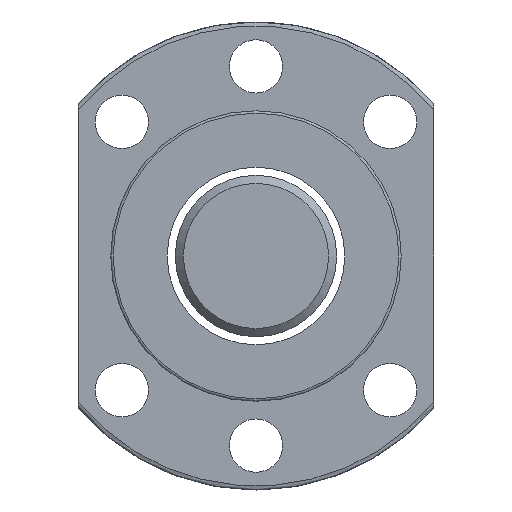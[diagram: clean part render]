
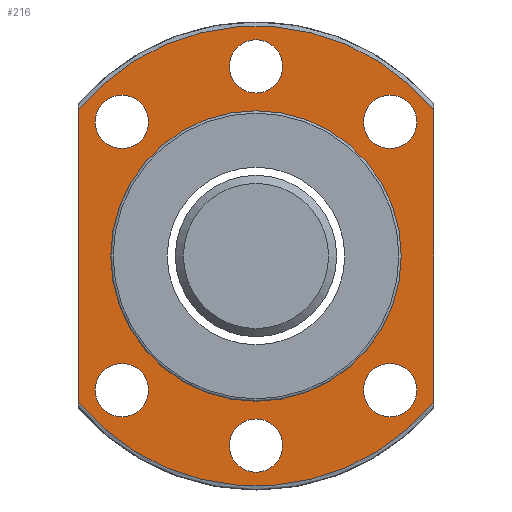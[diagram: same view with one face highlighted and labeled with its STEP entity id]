
A CAD part, left-side view. The second image highlights one B-rep face of the part: STEP entity #216.
In plain terms, the highlighted planar face has unit normal (-1, 0, 0).
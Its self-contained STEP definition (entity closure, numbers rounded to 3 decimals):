
#106=PLANE('',#666);
#124=FACE_BOUND('',#291,.T.);
#125=FACE_BOUND('',#292,.T.);
#126=FACE_BOUND('',#293,.T.);
#127=FACE_BOUND('',#294,.T.);
#128=FACE_BOUND('',#295,.T.);
#129=FACE_BOUND('',#296,.T.);
#130=FACE_BOUND('',#297,.T.);
#199=LINE('',#1111,#207);
#200=LINE('',#1112,#208);
#207=VECTOR('',#785,1.);
#208=VECTOR('',#786,1.);
#216=ADVANCED_FACE('',(#124,#125,#126,#127,#128,#129,#130,#264),#106,.F.);
#264=FACE_OUTER_BOUND('',#298,.T.);
#291=EDGE_LOOP('',(#435));
#292=EDGE_LOOP('',(#436));
#293=EDGE_LOOP('',(#437));
#294=EDGE_LOOP('',(#438));
#295=EDGE_LOOP('',(#439));
#296=EDGE_LOOP('',(#440));
#297=EDGE_LOOP('',(#441));
#298=EDGE_LOOP('',(#442,#443,#444,#445));
#360=CIRCLE('',#642,28.5);
#371=CIRCLE('',#657,28.5);
#372=CIRCLE('',#659,18.);
#373=CIRCLE('',#660,3.3);
#374=CIRCLE('',#661,3.3);
#375=CIRCLE('',#662,3.3);
#376=CIRCLE('',#663,3.3);
#377=CIRCLE('',#664,3.3);
#378=CIRCLE('',#665,3.3);
#435=ORIENTED_EDGE('',*,*,#598,.T.);
#436=ORIENTED_EDGE('',*,*,#599,.T.);
#437=ORIENTED_EDGE('',*,*,#600,.T.);
#438=ORIENTED_EDGE('',*,*,#601,.T.);
#439=ORIENTED_EDGE('',*,*,#602,.T.);
#440=ORIENTED_EDGE('',*,*,#603,.T.);
#441=ORIENTED_EDGE('',*,*,#604,.T.);
#442=ORIENTED_EDGE('',*,*,#596,.F.);
#443=ORIENTED_EDGE('',*,*,#605,.T.);
#444=ORIENTED_EDGE('',*,*,#578,.F.);
#445=ORIENTED_EDGE('',*,*,#606,.F.);
#524=VERTEX_POINT('',#964);
#525=VERTEX_POINT('',#984);
#539=VERTEX_POINT('',#1074);
#540=VERTEX_POINT('',#1076);
#541=VERTEX_POINT('',#1098);
#542=VERTEX_POINT('',#1100);
#543=VERTEX_POINT('',#1102);
#544=VERTEX_POINT('',#1104);
#545=VERTEX_POINT('',#1106);
#546=VERTEX_POINT('',#1108);
#547=VERTEX_POINT('',#1110);
#578=EDGE_CURVE('',#525,#524,#360,.T.);
#596=EDGE_CURVE('',#539,#540,#371,.T.);
#598=EDGE_CURVE('',#541,#541,#372,.T.);
#599=EDGE_CURVE('',#542,#542,#373,.T.);
#600=EDGE_CURVE('',#543,#543,#374,.T.);
#601=EDGE_CURVE('',#544,#544,#375,.T.);
#602=EDGE_CURVE('',#545,#545,#376,.T.);
#603=EDGE_CURVE('',#546,#546,#377,.T.);
#604=EDGE_CURVE('',#547,#547,#378,.T.);
#605=EDGE_CURVE('',#539,#524,#199,.T.);
#606=EDGE_CURVE('',#540,#525,#200,.T.);
#642=AXIS2_PLACEMENT_3D('',#985,#733,#734);
#657=AXIS2_PLACEMENT_3D('',#1075,#767,#768);
#659=AXIS2_PLACEMENT_3D('',#1097,#771,#772);
#660=AXIS2_PLACEMENT_3D('',#1099,#773,#774);
#661=AXIS2_PLACEMENT_3D('',#1101,#775,#776);
#662=AXIS2_PLACEMENT_3D('',#1103,#777,#778);
#663=AXIS2_PLACEMENT_3D('',#1105,#779,#780);
#664=AXIS2_PLACEMENT_3D('',#1107,#781,#782);
#665=AXIS2_PLACEMENT_3D('',#1109,#783,#784);
#666=AXIS2_PLACEMENT_3D('',#1113,#787,#788);
#733=DIRECTION('',(1.,0.,0.));
#734=DIRECTION('',(0.,1.,0.));
#767=DIRECTION('',(1.,0.,0.));
#768=DIRECTION('',(0.,1.,0.));
#771=DIRECTION('',(1.,0.,0.));
#772=DIRECTION('',(0.,1.,0.));
#773=DIRECTION('',(1.,0.,0.));
#774=DIRECTION('',(0.,1.,0.));
#775=DIRECTION('',(1.,0.,0.));
#776=DIRECTION('',(0.,1.,0.));
#777=DIRECTION('',(1.,0.,0.));
#778=DIRECTION('',(0.,1.,0.));
#779=DIRECTION('',(1.,0.,0.));
#780=DIRECTION('',(0.,1.,0.));
#781=DIRECTION('',(1.,0.,0.));
#782=DIRECTION('',(0.,1.,0.));
#783=DIRECTION('',(1.,0.,0.));
#784=DIRECTION('',(0.,1.,0.));
#785=DIRECTION('',(0.,0.,-1.));
#786=DIRECTION('',(0.,0.,-1.));
#787=DIRECTION('',(1.,0.,0.));
#788=DIRECTION('',(0.,1.,0.));
#964=CARTESIAN_POINT('',(-25.,22.,-18.118));
#984=CARTESIAN_POINT('',(-25.,-22.,-18.118));
#985=CARTESIAN_POINT('',(-25.,0.,0.));
#1074=CARTESIAN_POINT('',(-25.,22.,18.118));
#1075=CARTESIAN_POINT('',(-25.,0.,0.));
#1076=CARTESIAN_POINT('',(-25.,-22.,18.118));
#1097=CARTESIAN_POINT('',(-25.,0.,0.));
#1098=CARTESIAN_POINT('',(-25.,18.,0.));
#1099=CARTESIAN_POINT('',(-25.,16.617,16.617));
#1100=CARTESIAN_POINT('',(-25.,19.917,16.617));
#1101=CARTESIAN_POINT('',(-25.,-16.617,16.617));
#1102=CARTESIAN_POINT('',(-25.,-13.317,16.617));
#1103=CARTESIAN_POINT('',(-25.,-16.617,-16.617));
#1104=CARTESIAN_POINT('',(-25.,-13.317,-16.617));
#1105=CARTESIAN_POINT('',(-25.,16.617,-16.617));
#1106=CARTESIAN_POINT('',(-25.,19.917,-16.617));
#1107=CARTESIAN_POINT('',(-25.,0.,23.5));
#1108=CARTESIAN_POINT('',(-25.,3.3,23.5));
#1109=CARTESIAN_POINT('',(-25.,0.,-23.5));
#1110=CARTESIAN_POINT('',(-25.,3.3,-23.5));
#1111=CARTESIAN_POINT('',(-25.,22.,0.));
#1112=CARTESIAN_POINT('',(-25.,-22.,0.));
#1113=CARTESIAN_POINT('',(-25.,23.25,0.));
